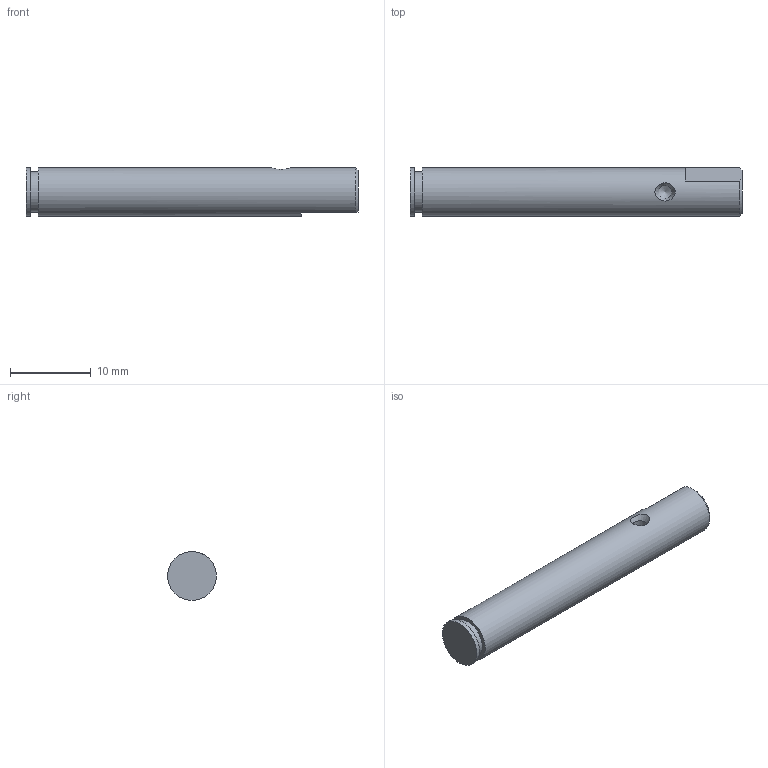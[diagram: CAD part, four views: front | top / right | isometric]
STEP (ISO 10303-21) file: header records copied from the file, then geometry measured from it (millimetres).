
FILE_DESCRIPTION(/* description */ ('Axis Quick Adjustment'),/* implementation_level */ '2;1');
FILE_NAME(/* name */ 'ITPTv2.01.00.30.stp',/* time_stamp */ '2025-02-12T11:20:33+01:00',/* author */ ('Rüdiger Widera'),/* organization */ (''),/* preprocessor_version */ 'ST-DEVELOPER v19.2',/* originating_system */ 'Autodesk Inventor 2024',/* authorisation */ '');
FILE_SCHEMA (('AUTOMOTIVE_DESIGN { 1 0 10303 214 3 1 1 }'));
Length unit declared in the file: millimetre
Products named in the file (1): ITPTv2.01.00.30
Bounding box: 41 x 6 x 6 mm (x, y, z)
Volume: 1127.2 mm3; surface area: 852.2 mm2
Topology: 1 solids, 1 shells, 16 faces, 35 edges, 23 vertices
Faces by surface type: plane 8, cylinder 4, cone 4
Full cylindrical faces by diameter (mm): 1.6 x1, 5 x1, 6 x2
Entity records: 510 total; most frequent: CARTESIAN_POINT 117, DIRECTION 76, ORIENTED_EDGE 68, EDGE_CURVE 34, AXIS2_PLACEMENT_3D 31, VERTEX_POINT 23, EDGE_LOOP 19, FACE_OUTER_BOUND 16
